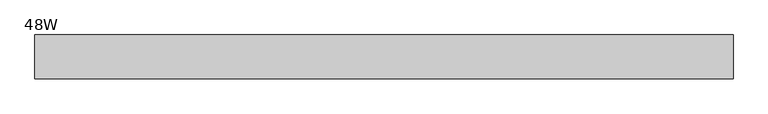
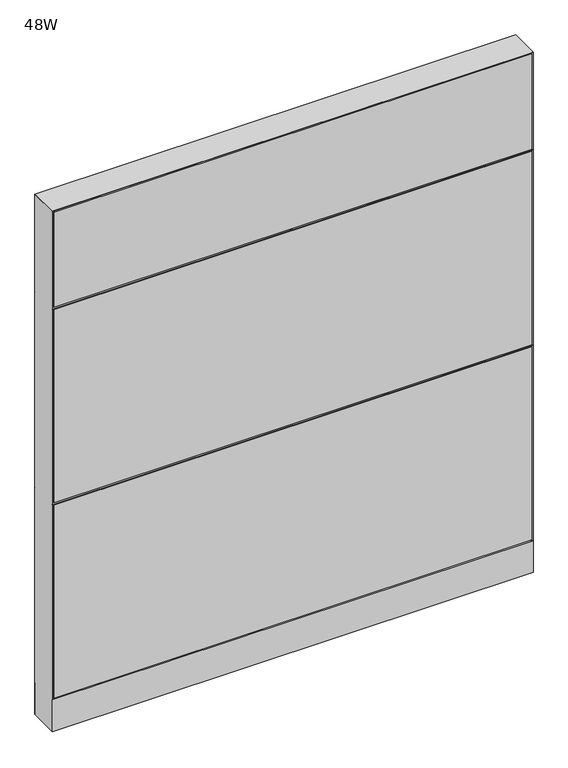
"""IFC4 building model written with IfcOpenShell, lengths in millimetres: furniture geometry, Steelcase - Montage - Frame - 55H - Enhanced Standard - Base Cavity : 48W."""

from ifc_helpers import new_model, si_unit, point, frame, frame_2d, origin, origin_with_axes, place, context, project, spatial, polyline, circle_curve, trimmed, segment, composite_curve, outline, extrude, faceted_brep, source, transform, mapped, element, save


def furniture_48w_216d00bf(model_context):
    return source(origin(), model_context, "Body", "SolidModel", [
        extrude(outline(polyline([(3.175, 31.7500194), (3.175, 38.1000194), (1216.025, 38.1000194), (1216.025, 31.7500194), (3.175, 31.7500194)])), frame((0.0, 0.0, 92.075), z_axis=(0.0, 0.0, 1.0), x_axis=(1.0, 0.0, 0.0)), (0.0, 0.0, 1.0), 517.525),
        faceted_brep([(-5.4e-06, 38.102627, 612.7750027), (6.3499917, 31.7526299, 619.1249997), (1212.8500047, 31.7526299, 619.1249997), (1219.2, 38.1026253, 612.7750044), (1212.8500047, 31.7526299, 606.4250003), (6.3499917, 31.7526299, 606.4250003)], [[[0, 1, 2, 3]], [[3, 4, 5, 0]], [[1, 5, 4, 2]], [[0, 5, 1]], [[2, 4, 3]]]),
        faceted_brep([(-5.4e-06, 38.102627, 1136.6500027), (6.3499917, 31.7526299, 1142.9999997), (1212.8500047, 31.7526299, 1142.9999997), (1219.2, 38.1026253, 1136.6500044), (1212.8500047, 31.7526299, 1130.3000003), (6.3499917, 31.7526299, 1130.3000003)], [[[0, 1, 2, 3]], [[3, 4, 5, 0]], [[1, 5, 4, 2]], [[0, 5, 1]], [[2, 4, 3]]]),
        extrude(outline(polyline([(3.175, 31.7500194), (3.175, 38.1000194), (1216.025, 38.1000194), (1216.025, 31.7500194), (3.175, 31.7500194)])), frame((0.0, 0.0, 615.95), z_axis=(0.0, 0.0, 1.0), x_axis=(1.0, 0.0, 0.0)), (0.0, 0.0, 1.0), 517.525),
        extrude(outline(polyline([(3.175, 31.7500194), (3.175, 38.1000194), (1216.025, 38.1000194), (1216.025, 31.7500194), (3.175, 31.7500194)])), frame((0.0, 0.0, 1139.825), z_axis=(0.0, 0.0, 1.0), x_axis=(1.0, 0.0, 0.0)), (0.0, 0.0, 1.0), 255.5875),
        extrude(outline(polyline([(3.175, -31.7500194), (1216.025, -31.7500194), (1216.025, -38.1000194), (3.175, -38.1000194), (3.175, -31.7500194)])), frame((0.0, 0.0, 92.075), z_axis=(0.0, 0.0, 1.0), x_axis=(1.0, 0.0, 0.0)), (0.0, 0.0, 1.0), 517.525),
        faceted_brep([(0.0, -38.1026297, 612.775), (1219.2, -38.1026297, 612.775), (1212.8500047, -31.7526299, 619.1249997), (6.3499917, -31.7526299, 619.1249997), (6.3499917, -31.7526299, 606.4250003), (1212.8500047, -31.7526299, 606.4250003)], [[[0, 1, 2, 3]], [[1, 0, 4, 5]], [[3, 2, 5, 4]], [[0, 3, 4]], [[2, 1, 5]]]),
        faceted_brep([(0.0, -38.1026297, 1136.65), (1219.2, -38.1026297, 1136.65), (1212.8500047, -31.7526299, 1142.9999997), (6.3499917, -31.7526299, 1142.9999997), (6.3499917, -31.7526299, 1130.3000003), (1212.8500047, -31.7526299, 1130.3000003)], [[[0, 1, 2, 3]], [[1, 0, 4, 5]], [[3, 2, 5, 4]], [[0, 3, 4]], [[2, 1, 5]]]),
        extrude(outline(polyline([(3.175, -31.7500194), (1216.025, -31.7500194), (1216.025, -38.1000194), (3.175, -38.1000194), (3.175, -31.7500194)])), frame((0.0, 0.0, 615.95), z_axis=(0.0, 0.0, 1.0), x_axis=(1.0, 0.0, 0.0)), (0.0, 0.0, 1.0), 517.525),
        extrude(outline(polyline([(3.175, -31.7500194), (1216.025, -31.7500194), (1216.025, -38.1000194), (3.175, -38.1000194), (3.175, -31.7500194)])), frame((0.0, 0.0, 1139.825), z_axis=(0.0, 0.0, 1.0), x_axis=(1.0, 0.0, 0.0)), (0.0, 0.0, 1.0), 255.5875),
        extrude(outline(polyline([(6.350003, -31.7499985), (1212.849997, -31.7499985), (1219.2, -38.1000015), (0.0, -38.1000015), (6.350003, -31.7499985)])), frame((0.0, 0.0, 4.064), z_axis=(0.0, 0.0, 1.0), x_axis=(1.0, 0.0, 0.0)), (0.0, 0.0, 1.0), 84.835997),
        extrude(outline(polyline([(6.3500002, 31.7500017), (0.0, 38.1000015), (1219.2, 38.1000015), (1212.8500002, 31.7500017), (6.3500002, 31.7500017)])), frame((0.0, 0.0, 4.064), z_axis=(0.0, 0.0, 1.0), x_axis=(1.0, 0.0, 0.0)), (0.0, 0.0, 1.0), 84.835997),
        faceted_brep([(1219.2, -38.1000015, 1398.5875), (0.0, -38.1000015, 1398.5875), (6.3500484, -31.749953, 1392.2374516), (1212.8499516, -31.749953, 1392.2374516), (6.3500484, 31.749953, 1392.2374516), (1212.8499516, 31.749953, 1392.2374516), (0.0, 38.1000015, 1398.5875), (1219.2, 38.1000015, 1398.5875)], [[[0, 1, 2, 3]], [[3, 2, 4, 5]], [[6, 7, 5, 4]], [[1, 0, 7, 6]], [[2, 1, 6, 4]], [[0, 3, 5, 7]]]),
        extrude(outline(composite_curve([segment(trimmed(circle_curve(frame_2d((44.45, 0.0)), 15.24), [point((29.21, 0.0))], [point((59.69, 0.0))], False, "CARTESIAN"), True, "CONTINUOUS"), segment(trimmed(circle_curve(frame_2d((44.45, 0.0)), 15.24), [point((59.69, 0.0))], [point((29.21, 0.0))], False, "CARTESIAN"), True, "CONTINUOUS")], self_intersect=False)), origin_with_axes(), (0.0, 0.0, 1.0), 4.064),
        extrude(outline(composite_curve([segment(trimmed(circle_curve(frame_2d((1174.75, 0.0)), 15.24), [point((1159.51, 0.0))], [point((1189.99, 0.0))], False, "CARTESIAN"), True, "CONTINUOUS"), segment(trimmed(circle_curve(frame_2d((1174.75, 0.0)), 15.24), [point((1189.99, 0.0))], [point((1159.51, 0.0))], False, "CARTESIAN"), True, "CONTINUOUS")], self_intersect=False)), origin_with_axes(), (0.0, 0.0, 1.0), 4.064),
        faceted_brep([(1219.2, -38.1000106, 4.064), (1219.2, 38.1000015, 4.064), (1219.2, 38.1000015, 1398.5875), (1219.2, -38.1000106, 1398.5874637), (0.0, 38.1000015, 4.064), (0.0, -38.1000015, 4.064), (0.0, -38.1000015, 1398.5875), (0.0, 38.1000015, 1398.5875), (1212.8499879, 31.7500017, 606.425), (6.35, 31.7500017, 606.425), (6.3499998, 31.7500017, 619.125), (1212.8499879, 31.7500017, 619.125), (6.35, -31.7499985, 619.125), (1212.8499879, -31.7499985, 619.125), (6.350003, -31.7499985, 606.425), (1212.8499879, -31.7499985, 606.425), (6.35, 31.7500015, 4.064), (6.35, -31.7500015, 4.064), (1212.8499879, 31.7499894, 4.064), (1212.8499879, -31.7499985, 4.064), (6.35, 31.7500015, 1392.2375), (6.35, -31.7500015, 1392.2375), (1212.8499879, -31.7499985, 1392.2374516), (1212.8499879, 31.7499895, 1392.2374516)], [[[0, 1, 2, 3]], [[4, 5, 6, 7]], [[8, 9, 10, 11]], [[11, 10, 12, 13]], [[13, 12, 14, 15]], [[9, 8, 15, 14]], [[16, 17, 5, 4]], [[18, 1, 0, 19]], [[16, 4, 7, 20, 10, 9]], [[5, 17, 14, 12, 21, 6]], [[12, 10, 20, 21]], [[17, 16, 9, 14]], [[11, 13, 22, 23]], [[18, 19, 15, 8]], [[19, 0, 3, 22, 13, 15]], [[1, 18, 8, 11, 23, 2]], [[7, 6, 21, 20]], [[3, 2, 23, 22]]]),
    ])


if __name__ == "__main__":
    model = new_model("IFC4")
    model_context = context("Model", 3, world=origin())
    ifc_project = project(units=[si_unit("LENGTHUNIT", "METRE", prefix="MILLI")], contexts=[model_context])
    site = spatial("IfcSite", under=ifc_project)
    building = spatial("IfcBuilding", under=site)
    placement = place(None, origin())
    furniture_48w_shape = furniture_48w_216d00bf(model_context)
    element("IfcFurniture", 1, ObjectType="Steelcase - Montage - Frame - 55H - Enhanced Standard - Base Cavity : 48W", at=placement, inside=building, context=model_context, shape_type="MappedRepresentation", body=[
        mapped(furniture_48w_shape, transform((0.0, 0.0, 0.0), x_axis=(1.0, 0.0, 0.0), y_axis=(0.0, 1.0, 0.0), z_axis=(0.0, 0.0, 1.0))),
    ])
    save(model, "model.ifc")
